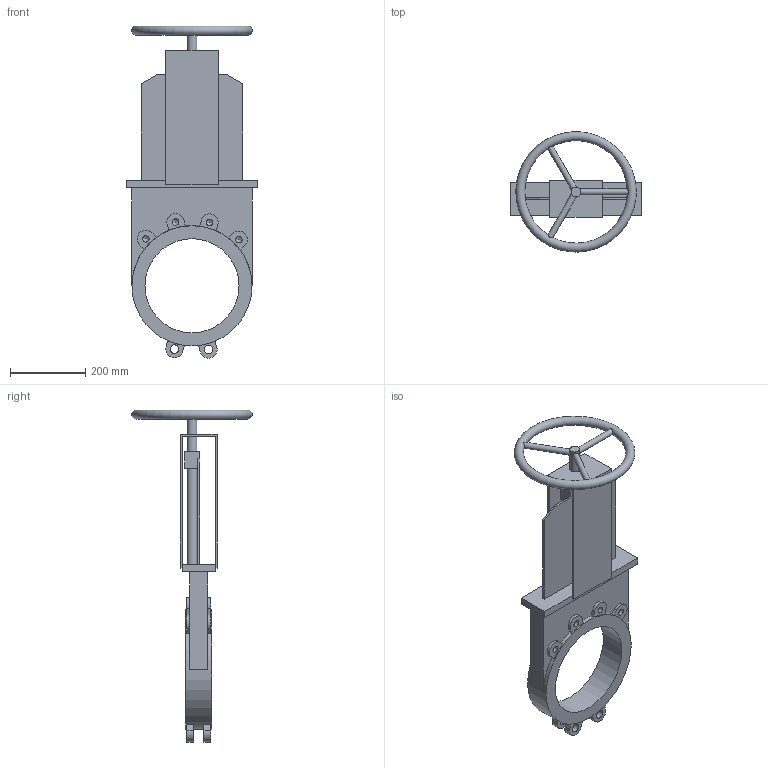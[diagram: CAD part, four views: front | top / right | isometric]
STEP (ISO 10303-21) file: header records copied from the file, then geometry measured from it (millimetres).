
FILE_DESCRIPTION(('STEP AP203'), '1');
FILE_NAME('Çàäâèæêà øèáåðíàÿ ìåæôëàíöåâàÿ K21GV DN250', '', ('UNSPECIFIED'), ('UNSPECIFIED'), 'ASCON STEP Converter 1.6', 'ASCON Math Kernel', '');
FILE_SCHEMA(('CONFIG_CONTROL_DESIGN'));
Length unit declared in the file: millimetre
Bounding box: 349 x 319.38 x 881.84 mm (x, y, z)
Volume: 6716886.4 mm3; surface area: 872085.9 mm2
Topology: 1 solids, 1 shells, 117 faces, 320 edges, 209 vertices
Faces by surface type: plane 76, cylinder 32, cone 8, torus 1
Full cylindrical faces by diameter (mm): 16 x3, 17.294 x8, 23 x4, 26 x3, 250 x1, 319 x1
Entity records: 5656 total; most frequent: CARTESIAN_POINT 1794, DIRECTION 594, ORIENTED_EDGE 560, EDGE_CURVE 280, AXIS2_PLACEMENT_3D 204, VERTEX_POINT 200, LINE 186, VECTOR 186
